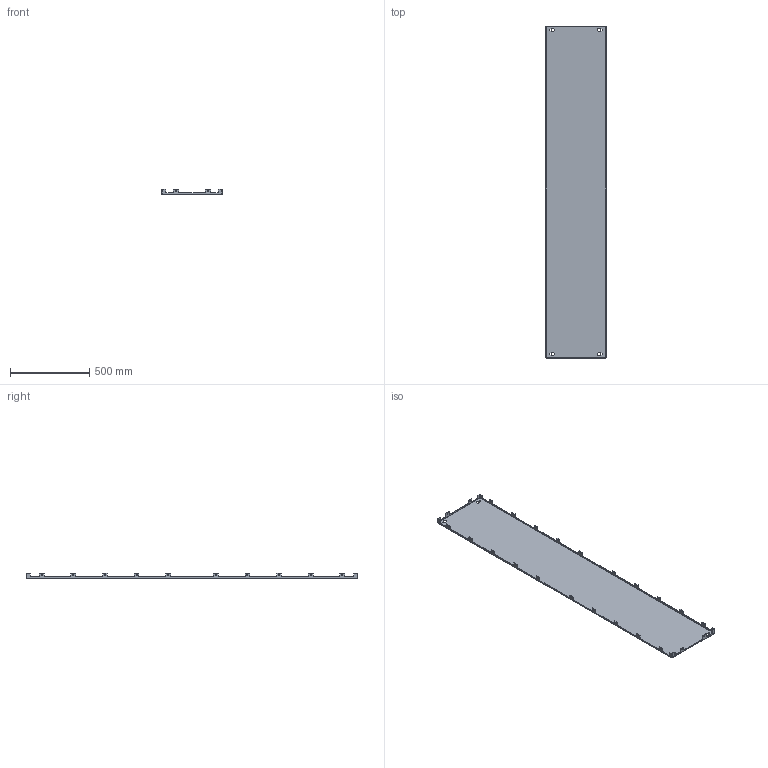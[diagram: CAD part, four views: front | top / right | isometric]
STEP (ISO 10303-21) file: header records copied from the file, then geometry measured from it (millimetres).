
FILE_DESCRIPTION (( 'STEP AP203' ), '1' );
FILE_NAME ('R5LPS2205.STEP', '2021-12-17T12:36:23', ( '' ), ( '' ), 'SwSTEP 2.0', 'SolidWorks 2020', '' );
FILE_SCHEMA (( 'CONFIG_CONTROL_DESIGN' ));
Length unit declared in the file: millimetre
Products named in the file (1): R5LPS2205
Bounding box: 384 x 2098 x 32.5 mm (x, y, z)
Volume: 1717229.6 mm3; surface area: 1731888 mm2
Topology: 1 solids, 1 shells, 432 faces, 1258 edges, 828 vertices
Faces by surface type: plane 274, cylinder 158
Entity records: 14431 total; most frequent: CARTESIAN_POINT 2519, ORIENTED_EDGE 2516, DIRECTION 2440, EDGE_CURVE 1258, VECTOR 942, LINE 942, VERTEX_POINT 828, AXIS2_PLACEMENT_3D 749
